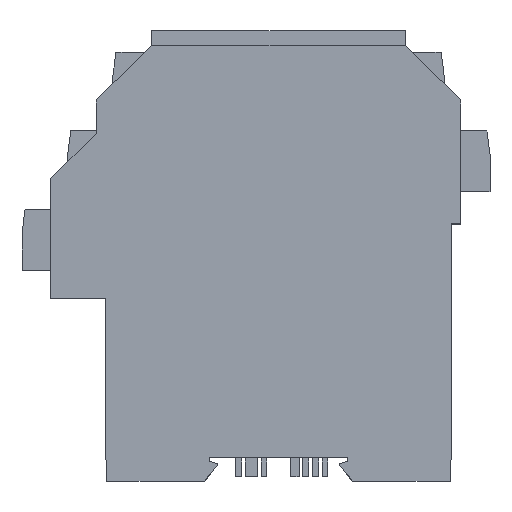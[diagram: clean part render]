
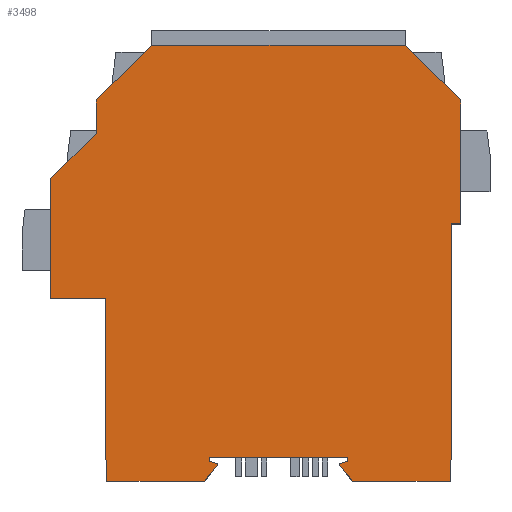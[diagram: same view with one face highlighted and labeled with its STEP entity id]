
A CAD part, top view. The second image highlights one B-rep face of the part: STEP entity #3498.
In plain terms, the highlighted planar face has unit normal (0, 0, 1).
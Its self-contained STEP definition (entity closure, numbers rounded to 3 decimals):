
#67=CARTESIAN_POINT('',(-15.88,-1.774,6.25));
#68=DIRECTION('',(0.,0.,-1.));
#69=DIRECTION('',(0.258,0.966,0.));
#70=AXIS2_PLACEMENT_3D('',#67,#68,#69);
#72=DIRECTION('',(-0.643,-0.766,0.));
#73=VECTOR('',#72,5.05);
#74=CARTESIAN_POINT('',(-15.574,-2.031,6.25));
#75=LINE('',#74,#73);
#76=DIRECTION('',(-1.,0.,0.));
#77=VECTOR('',#76,24.874);
#78=CARTESIAN_POINT('',(-18.82,-5.9,6.25));
#79=LINE('',#78,#77);
#80=DIRECTION('',(-0.035,0.999,0.));
#81=VECTOR('',#80,5.904);
#82=CARTESIAN_POINT('',(-43.694,-5.9,6.25));
#83=LINE('',#82,#81);
#84=DIRECTION('',(-1.,0.,0.));
#85=VECTOR('',#84,14.);
#86=CARTESIAN_POINT('',(-43.9,40.5,6.25));
#87=LINE('',#86,#85);
#88=DIRECTION('',(0.,1.,0.));
#89=VECTOR('',#88,30.54);
#90=CARTESIAN_POINT('',(-57.9,40.5,6.25));
#91=LINE('',#90,#89);
#92=DIRECTION('',(0.707,0.707,0.));
#93=VECTOR('',#92,16.263);
#94=CARTESIAN_POINT('',(-57.9,71.04,6.25));
#95=LINE('',#94,#93);
#96=DIRECTION('',(0.,1.,0.));
#97=VECTOR('',#96,8.49);
#98=CARTESIAN_POINT('',(-46.4,82.54,6.25));
#99=LINE('',#98,#97);
#100=DIRECTION('',(0.713,0.701,0.));
#101=VECTOR('',#100,19.92);
#102=CARTESIAN_POINT('',(-46.4,91.03,6.25));
#103=LINE('',#102,#101);
#104=DIRECTION('',(1.,0.,0.));
#105=VECTOR('',#104,64.4);
#106=CARTESIAN_POINT('',(-32.2,105.,6.25));
#107=LINE('',#106,#105);
#108=DIRECTION('',(0.713,-0.701,0.));
#109=VECTOR('',#108,19.927);
#110=CARTESIAN_POINT('',(32.2,105.,6.25));
#111=LINE('',#110,#109);
#112=DIRECTION('',(0.,-1.,0.));
#113=VECTOR('',#112,31.53);
#114=CARTESIAN_POINT('',(46.41,91.03,6.25));
#115=LINE('',#114,#113);
#116=DIRECTION('',(-1.,0.,0.));
#117=VECTOR('',#116,2.51);
#118=CARTESIAN_POINT('',(46.41,59.5,6.25));
#119=LINE('',#118,#117);
#120=DIRECTION('',(-0.035,-0.999,0.));
#121=VECTOR('',#120,5.904);
#122=CARTESIAN_POINT('',(43.9,0.,6.25));
#123=LINE('',#122,#121);
#124=DIRECTION('',(-1.,0.,0.));
#125=VECTOR('',#124,24.874);
#126=CARTESIAN_POINT('',(43.694,-5.9,6.25));
#127=LINE('',#126,#125);
#128=DIRECTION('',(-0.643,0.766,0.));
#129=VECTOR('',#128,5.05);
#130=CARTESIAN_POINT('',(18.82,-5.9,6.25));
#131=LINE('',#130,#129);
#132=CARTESIAN_POINT('',(15.88,-1.774,6.25));
#133=DIRECTION('',(0.,0.,-1.));
#134=DIRECTION('',(-0.766,-0.643,0.));
#135=AXIS2_PLACEMENT_3D('',#132,#133,#134);
#137=DIRECTION('',(0.966,0.258,0.));
#138=VECTOR('',#137,1.887);
#139=CARTESIAN_POINT('',(15.777,-1.388,6.25));
#140=LINE('',#139,#138);
#141=DIRECTION('',(0.966,-0.258,0.));
#142=VECTOR('',#141,1.887);
#143=CARTESIAN_POINT('',(-17.6,-0.9,6.25));
#144=LINE('',#143,#142);
#165=DIRECTION('',(0.,-1.,0.));
#166=VECTOR('',#165,40.5);
#167=CARTESIAN_POINT('',(-43.9,40.5,6.25));
#168=LINE('',#167,#166);
#337=DIRECTION('',(0.,1.,0.));
#338=VECTOR('',#337,59.5);
#339=CARTESIAN_POINT('',(43.9,0.,6.25));
#340=LINE('',#339,#338);
#1101=DIRECTION('',(0.,-1.,0.));
#1102=VECTOR('',#1101,0.9);
#1103=CARTESIAN_POINT('',(17.6,0.,6.25));
#1104=LINE('',#1103,#1102);
#1113=DIRECTION('',(1.,0.,0.));
#1114=VECTOR('',#1113,35.2);
#1115=CARTESIAN_POINT('',(-17.6,0.,6.25));
#1116=LINE('',#1115,#1114);
#1177=DIRECTION('',(0.,1.,0.));
#1178=VECTOR('',#1177,0.9);
#1179=CARTESIAN_POINT('',(-17.6,-0.9,6.25));
#1180=LINE('',#1179,#1178);
#2601=CARTESIAN_POINT('',(-15.777,-1.388,6.25));
#2602=CARTESIAN_POINT('',(-15.574,-2.031,6.25));
#2603=VERTEX_POINT('',#2601);
#2604=VERTEX_POINT('',#2602);
#2605=CARTESIAN_POINT('',(-18.82,-5.9,6.25));
#2606=VERTEX_POINT('',#2605);
#2607=CARTESIAN_POINT('',(-43.694,-5.9,6.25));
#2608=VERTEX_POINT('',#2607);
#2609=CARTESIAN_POINT('',(-43.9,0.,6.25));
#2610=VERTEX_POINT('',#2609);
#2611=CARTESIAN_POINT('',(-43.9,40.5,6.25));
#2612=VERTEX_POINT('',#2611);
#2613=CARTESIAN_POINT('',(-57.9,40.5,6.25));
#2614=VERTEX_POINT('',#2613);
#2615=CARTESIAN_POINT('',(-57.9,71.04,6.25));
#2616=VERTEX_POINT('',#2615);
#2617=CARTESIAN_POINT('',(-46.4,82.54,6.25));
#2618=VERTEX_POINT('',#2617);
#2619=CARTESIAN_POINT('',(-46.4,91.03,6.25));
#2620=VERTEX_POINT('',#2619);
#2621=CARTESIAN_POINT('',(-32.2,105.,6.25));
#2622=VERTEX_POINT('',#2621);
#2623=CARTESIAN_POINT('',(32.2,105.,6.25));
#2624=VERTEX_POINT('',#2623);
#2625=CARTESIAN_POINT('',(46.41,91.03,6.25));
#2626=VERTEX_POINT('',#2625);
#2627=CARTESIAN_POINT('',(46.41,59.5,6.25));
#2628=VERTEX_POINT('',#2627);
#2629=CARTESIAN_POINT('',(43.9,59.5,6.25));
#2630=VERTEX_POINT('',#2629);
#2631=CARTESIAN_POINT('',(43.9,0.,6.25));
#2632=VERTEX_POINT('',#2631);
#2633=CARTESIAN_POINT('',(43.694,-5.9,6.25));
#2634=VERTEX_POINT('',#2633);
#2635=CARTESIAN_POINT('',(18.82,-5.9,6.25));
#2636=VERTEX_POINT('',#2635);
#2637=CARTESIAN_POINT('',(15.574,-2.031,6.25));
#2638=VERTEX_POINT('',#2637);
#2639=CARTESIAN_POINT('',(15.777,-1.388,6.25));
#2640=VERTEX_POINT('',#2639);
#2641=CARTESIAN_POINT('',(17.6,-0.9,6.25));
#2642=VERTEX_POINT('',#2641);
#2643=CARTESIAN_POINT('',(17.6,0.,6.25));
#2644=VERTEX_POINT('',#2643);
#2645=CARTESIAN_POINT('',(-17.6,0.,6.25));
#2646=VERTEX_POINT('',#2645);
#2647=CARTESIAN_POINT('',(-17.6,-0.9,6.25));
#2648=VERTEX_POINT('',#2647);
#3444=CARTESIAN_POINT('',(0.,0.,6.25));
#3445=DIRECTION('',(0.,0.,1.));
#3446=DIRECTION('',(1.,0.,0.));
#3447=AXIS2_PLACEMENT_3D('',#3444,#3445,#3446);
#3448=PLANE('',#3447);
#3449=ORIENTED_EDGE('',*,*,#3434,.T.);
#3451=ORIENTED_EDGE('',*,*,#3450,.T.);
#3453=ORIENTED_EDGE('',*,*,#3452,.T.);
#3455=ORIENTED_EDGE('',*,*,#3454,.T.);
#3457=ORIENTED_EDGE('',*,*,#3456,.F.);
#3459=ORIENTED_EDGE('',*,*,#3458,.T.);
#3461=ORIENTED_EDGE('',*,*,#3460,.T.);
#3463=ORIENTED_EDGE('',*,*,#3462,.T.);
#3465=ORIENTED_EDGE('',*,*,#3464,.T.);
#3467=ORIENTED_EDGE('',*,*,#3466,.T.);
#3469=ORIENTED_EDGE('',*,*,#3468,.T.);
#3471=ORIENTED_EDGE('',*,*,#3470,.T.);
#3473=ORIENTED_EDGE('',*,*,#3472,.T.);
#3475=ORIENTED_EDGE('',*,*,#3474,.T.);
#3477=ORIENTED_EDGE('',*,*,#3476,.F.);
#3479=ORIENTED_EDGE('',*,*,#3478,.T.);
#3481=ORIENTED_EDGE('',*,*,#3480,.T.);
#3483=ORIENTED_EDGE('',*,*,#3482,.T.);
#3485=ORIENTED_EDGE('',*,*,#3484,.T.);
#3487=ORIENTED_EDGE('',*,*,#3486,.T.);
#3489=ORIENTED_EDGE('',*,*,#3488,.F.);
#3491=ORIENTED_EDGE('',*,*,#3490,.F.);
#3493=ORIENTED_EDGE('',*,*,#3492,.F.);
#3495=ORIENTED_EDGE('',*,*,#3494,.T.);
#3496=EDGE_LOOP('',(#3449,#3451,#3453,#3455,#3457,#3459,#3461,#3463,#3465,#3467,
#3469,#3471,#3473,#3475,#3477,#3479,#3481,#3483,#3485,#3487,#3489,#3491,#3493,
#3495));
#3497=FACE_OUTER_BOUND('',#3496,.F.);
#3498=ADVANCED_FACE('',(#3497),#3448,.T.);
#71=CIRCLE('',#70,0.4);
#136=CIRCLE('',#135,0.4);
#3434=EDGE_CURVE('',#2603,#2604,#71,.T.);
#3450=EDGE_CURVE('',#2604,#2606,#75,.T.);
#3452=EDGE_CURVE('',#2606,#2608,#79,.T.);
#3454=EDGE_CURVE('',#2608,#2610,#83,.T.);
#3456=EDGE_CURVE('',#2612,#2610,#168,.T.);
#3458=EDGE_CURVE('',#2612,#2614,#87,.T.);
#3460=EDGE_CURVE('',#2614,#2616,#91,.T.);
#3462=EDGE_CURVE('',#2616,#2618,#95,.T.);
#3464=EDGE_CURVE('',#2618,#2620,#99,.T.);
#3466=EDGE_CURVE('',#2620,#2622,#103,.T.);
#3468=EDGE_CURVE('',#2622,#2624,#107,.T.);
#3470=EDGE_CURVE('',#2624,#2626,#111,.T.);
#3472=EDGE_CURVE('',#2626,#2628,#115,.T.);
#3474=EDGE_CURVE('',#2628,#2630,#119,.T.);
#3476=EDGE_CURVE('',#2632,#2630,#340,.T.);
#3478=EDGE_CURVE('',#2632,#2634,#123,.T.);
#3480=EDGE_CURVE('',#2634,#2636,#127,.T.);
#3482=EDGE_CURVE('',#2636,#2638,#131,.T.);
#3484=EDGE_CURVE('',#2638,#2640,#136,.T.);
#3486=EDGE_CURVE('',#2640,#2642,#140,.T.);
#3488=EDGE_CURVE('',#2644,#2642,#1104,.T.);
#3490=EDGE_CURVE('',#2646,#2644,#1116,.T.);
#3492=EDGE_CURVE('',#2648,#2646,#1180,.T.);
#3494=EDGE_CURVE('',#2648,#2603,#144,.T.);
